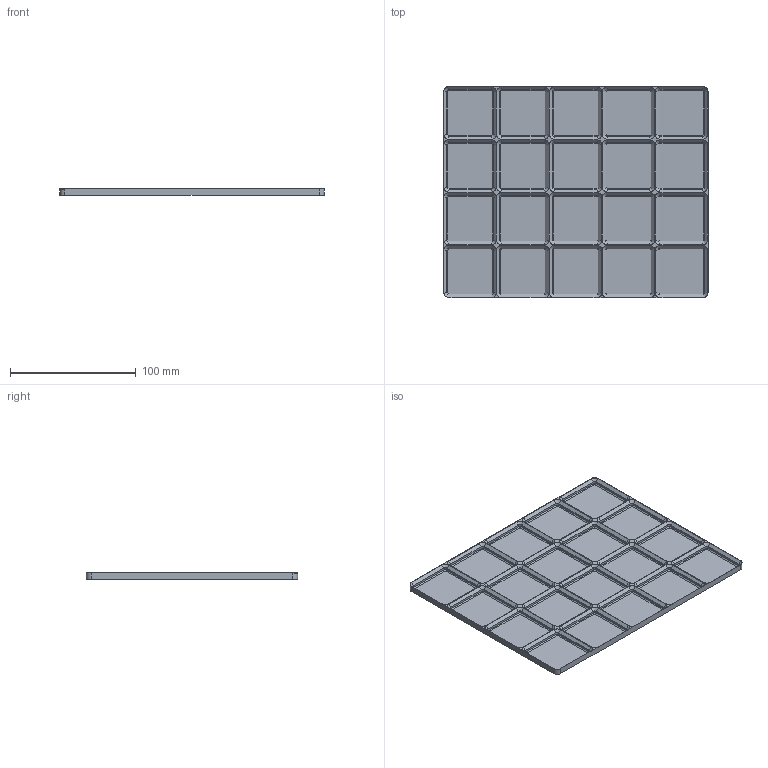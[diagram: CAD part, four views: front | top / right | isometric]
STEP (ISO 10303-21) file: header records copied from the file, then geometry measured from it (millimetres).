
FILE_DESCRIPTION(('Open CASCADE Model'),'2;1');
FILE_NAME('Open CASCADE Shape Model','2026-11-03T14:04:35',('Author'),( 'Open CASCADE'),'Open CASCADE STEP processor 8.0','build123d', 'Unknown');
FILE_SCHEMA(('AUTOMOTIVE_DESIGN { 1 0 10303 214 1 1 1 1 }'));
Length unit declared in the file: millimetre
Products named in the file (1): COMPOUND
Bounding box: 210 x 168 x 5 mm (x, y, z)
Volume: 40367.1 mm3; surface area: 83110.2 mm2
Topology: 1 solids, 1 shells, 510 faces, 1168 edges, 672 vertices
Faces by surface type: plane 266, cone 160, cylinder 84
Entity records: 27714 total; most frequent: CARTESIAN_POINT 6554, DIRECTION 3220, ORIENTED_EDGE 2336, PCURVE 2336, DEFINITIONAL_REPRESENTATION 2336, B_SPLINE_CURVE_WITH_KNOTS 1627, LINE 1349, VECTOR 1349
